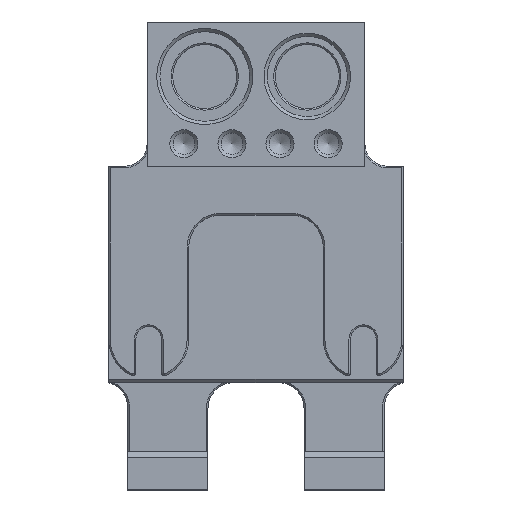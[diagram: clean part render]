
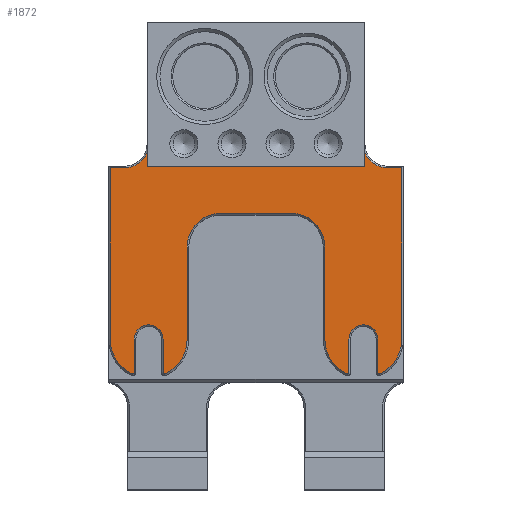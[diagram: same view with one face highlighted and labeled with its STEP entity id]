
A CAD part, top view. The second image highlights one B-rep face of the part: STEP entity #1872.
In plain terms, the highlighted planar face has unit normal (0, 0, 1).
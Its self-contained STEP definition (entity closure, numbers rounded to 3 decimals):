
#88=PLANE('',#2074);
#192=FACE_OUTER_BOUND('',#310,.T.);
#310=EDGE_LOOP('',(#1616,#1617,#1618,#1619,#1620,#1621,#1622,#1623,#1624,
#1625,#1626,#1627,#1628,#1629,#1630,#1631,#1632,#1633,#1634,#1635,#1636,
#1637,#1638,#1639,#1640,#1641,#1642,#1643));
#333=LINE('',#2677,#515);
#337=LINE('',#2686,#519);
#342=LINE('',#2704,#524);
#346=LINE('',#2716,#528);
#351=LINE('',#2734,#533);
#355=LINE('',#2746,#537);
#359=LINE('',#2758,#541);
#364=LINE('',#2776,#546);
#368=LINE('',#2788,#550);
#372=LINE('',#2803,#554);
#375=LINE('',#2817,#557);
#489=LINE('',#3164,#671);
#490=LINE('',#3166,#672);
#491=LINE('',#3167,#673);
#515=VECTOR('',#2109,10.);
#519=VECTOR('',#2115,10.);
#524=VECTOR('',#2134,10.);
#528=VECTOR('',#2146,10.);
#533=VECTOR('',#2165,10.);
#537=VECTOR('',#2177,10.);
#541=VECTOR('',#2189,10.);
#546=VECTOR('',#2208,10.);
#550=VECTOR('',#2220,10.);
#554=VECTOR('',#2238,10.);
#557=VECTOR('',#2249,10.);
#671=VECTOR('',#2593,10.);
#672=VECTOR('',#2594,10.);
#673=VECTOR('',#2595,10.);
#695=CIRCLE('',#1908,7.5);
#697=CIRCLE('',#1913,12.);
#700=CIRCLE('',#1917,0.5);
#701=CIRCLE('',#1920,4.5);
#704=CIRCLE('',#1925,0.5);
#705=CIRCLE('',#1927,12.);
#708=CIRCLE('',#1932,10.5);
#710=CIRCLE('',#1936,10.5);
#711=CIRCLE('',#1939,12.);
#714=CIRCLE('',#1943,0.5);
#715=CIRCLE('',#1946,4.5);
#718=CIRCLE('',#1951,0.5);
#719=CIRCLE('',#1953,12.);
#722=CIRCLE('',#1958,7.5);
#782=VERTEX_POINT('',#2664);
#783=VERTEX_POINT('',#2668);
#786=VERTEX_POINT('',#2676);
#789=VERTEX_POINT('',#2683);
#790=VERTEX_POINT('',#2685);
#792=VERTEX_POINT('',#2690);
#794=VERTEX_POINT('',#2697);
#796=VERTEX_POINT('',#2702);
#798=VERTEX_POINT('',#2708);
#800=VERTEX_POINT('',#2714);
#802=VERTEX_POINT('',#2721);
#804=VERTEX_POINT('',#2726);
#806=VERTEX_POINT('',#2732);
#808=VERTEX_POINT('',#2739);
#810=VERTEX_POINT('',#2744);
#812=VERTEX_POINT('',#2751);
#814=VERTEX_POINT('',#2756);
#816=VERTEX_POINT('',#2762);
#818=VERTEX_POINT('',#2769);
#820=VERTEX_POINT('',#2774);
#822=VERTEX_POINT('',#2780);
#824=VERTEX_POINT('',#2786);
#826=VERTEX_POINT('',#2793);
#828=VERTEX_POINT('',#2798);
#829=VERTEX_POINT('',#2806);
#832=VERTEX_POINT('',#2813);
#938=VERTEX_POINT('',#3163);
#939=VERTEX_POINT('',#3165);
#950=EDGE_CURVE('',#782,#783,#695,.T.);
#954=EDGE_CURVE('',#783,#786,#333,.T.);
#958=EDGE_CURVE('',#789,#790,#337,.T.);
#961=EDGE_CURVE('',#792,#789,#697,.T.);
#965=EDGE_CURVE('',#794,#792,#700,.T.);
#967=EDGE_CURVE('',#796,#794,#342,.T.);
#970=EDGE_CURVE('',#798,#796,#701,.T.);
#973=EDGE_CURVE('',#800,#798,#346,.T.);
#977=EDGE_CURVE('',#802,#800,#704,.T.);
#979=EDGE_CURVE('',#804,#802,#705,.T.);
#982=EDGE_CURVE('',#806,#804,#351,.T.);
#986=EDGE_CURVE('',#808,#806,#708,.T.);
#988=EDGE_CURVE('',#810,#808,#355,.T.);
#992=EDGE_CURVE('',#812,#810,#710,.T.);
#994=EDGE_CURVE('',#814,#812,#359,.T.);
#997=EDGE_CURVE('',#816,#814,#711,.T.);
#1001=EDGE_CURVE('',#818,#816,#714,.T.);
#1003=EDGE_CURVE('',#820,#818,#364,.T.);
#1006=EDGE_CURVE('',#822,#820,#715,.T.);
#1009=EDGE_CURVE('',#824,#822,#368,.T.);
#1013=EDGE_CURVE('',#826,#824,#718,.T.);
#1015=EDGE_CURVE('',#828,#826,#719,.T.);
#1017=EDGE_CURVE('',#786,#828,#372,.T.);
#1022=EDGE_CURVE('',#832,#829,#722,.T.);
#1023=EDGE_CURVE('',#790,#832,#375,.T.);
#1191=EDGE_CURVE('',#938,#782,#489,.T.);
#1192=EDGE_CURVE('',#939,#938,#490,.T.);
#1193=EDGE_CURVE('',#829,#939,#491,.T.);
#1616=ORIENTED_EDGE('',*,*,#950,.F.);
#1617=ORIENTED_EDGE('',*,*,#1191,.F.);
#1618=ORIENTED_EDGE('',*,*,#1192,.F.);
#1619=ORIENTED_EDGE('',*,*,#1193,.F.);
#1620=ORIENTED_EDGE('',*,*,#1022,.F.);
#1621=ORIENTED_EDGE('',*,*,#1023,.F.);
#1622=ORIENTED_EDGE('',*,*,#958,.F.);
#1623=ORIENTED_EDGE('',*,*,#961,.F.);
#1624=ORIENTED_EDGE('',*,*,#965,.F.);
#1625=ORIENTED_EDGE('',*,*,#967,.F.);
#1626=ORIENTED_EDGE('',*,*,#970,.F.);
#1627=ORIENTED_EDGE('',*,*,#973,.F.);
#1628=ORIENTED_EDGE('',*,*,#977,.F.);
#1629=ORIENTED_EDGE('',*,*,#979,.F.);
#1630=ORIENTED_EDGE('',*,*,#982,.F.);
#1631=ORIENTED_EDGE('',*,*,#986,.F.);
#1632=ORIENTED_EDGE('',*,*,#988,.F.);
#1633=ORIENTED_EDGE('',*,*,#992,.F.);
#1634=ORIENTED_EDGE('',*,*,#994,.F.);
#1635=ORIENTED_EDGE('',*,*,#997,.F.);
#1636=ORIENTED_EDGE('',*,*,#1001,.F.);
#1637=ORIENTED_EDGE('',*,*,#1003,.F.);
#1638=ORIENTED_EDGE('',*,*,#1006,.F.);
#1639=ORIENTED_EDGE('',*,*,#1009,.F.);
#1640=ORIENTED_EDGE('',*,*,#1013,.F.);
#1641=ORIENTED_EDGE('',*,*,#1015,.F.);
#1642=ORIENTED_EDGE('',*,*,#1017,.F.);
#1643=ORIENTED_EDGE('',*,*,#954,.F.);
#1872=ADVANCED_FACE('',(#192),#88,.T.);
#1908=AXIS2_PLACEMENT_3D('',#2669,#2101,#2102);
#1913=AXIS2_PLACEMENT_3D('',#2692,#2120,#2121);
#1917=AXIS2_PLACEMENT_3D('',#2699,#2129,#2130);
#1920=AXIS2_PLACEMENT_3D('',#2710,#2139,#2140);
#1925=AXIS2_PLACEMENT_3D('',#2723,#2153,#2154);
#1927=AXIS2_PLACEMENT_3D('',#2728,#2158,#2159);
#1932=AXIS2_PLACEMENT_3D('',#2741,#2172,#2173);
#1936=AXIS2_PLACEMENT_3D('',#2753,#2184,#2185);
#1939=AXIS2_PLACEMENT_3D('',#2764,#2194,#2195);
#1943=AXIS2_PLACEMENT_3D('',#2771,#2203,#2204);
#1946=AXIS2_PLACEMENT_3D('',#2782,#2213,#2214);
#1951=AXIS2_PLACEMENT_3D('',#2795,#2227,#2228);
#1953=AXIS2_PLACEMENT_3D('',#2800,#2232,#2233);
#1958=AXIS2_PLACEMENT_3D('',#2815,#2245,#2246);
#2074=AXIS2_PLACEMENT_3D('',#3162,#2591,#2592);
#2101=DIRECTION('center_axis',(0.,0.,1.));
#2102=DIRECTION('ref_axis',(-0.707,-0.707,0.));
#2109=DIRECTION('',(1.,0.,0.));
#2115=DIRECTION('',(0.,1.,0.));
#2120=DIRECTION('center_axis',(0.,0.,-1.));
#2121=DIRECTION('ref_axis',(0.32,-0.947,0.));
#2129=DIRECTION('center_axis',(0.,0.,-1.));
#2130=DIRECTION('ref_axis',(0.532,-0.847,0.));
#2134=DIRECTION('',(0.,-1.,0.));
#2139=DIRECTION('center_axis',(0.,0.,1.));
#2140=DIRECTION('ref_axis',(1.,0.,0.));
#2146=DIRECTION('',(0.,1.,0.));
#2153=DIRECTION('center_axis',(0.,0.,-1.));
#2154=DIRECTION('ref_axis',(-0.532,-0.847,0.));
#2158=DIRECTION('center_axis',(0.,0.,-1.));
#2159=DIRECTION('ref_axis',(0.32,-0.947,0.));
#2165=DIRECTION('',(0.,-1.,0.));
#2172=DIRECTION('center_axis',(0.,0.,1.));
#2173=DIRECTION('ref_axis',(-0.707,0.707,0.));
#2177=DIRECTION('',(-1.,0.,0.));
#2184=DIRECTION('center_axis',(0.,0.,1.));
#2185=DIRECTION('ref_axis',(0.707,0.707,0.));
#2189=DIRECTION('',(0.,1.,0.));
#2194=DIRECTION('center_axis',(0.,0.,-1.));
#2195=DIRECTION('ref_axis',(0.32,-0.947,0.));
#2203=DIRECTION('center_axis',(0.,0.,-1.));
#2204=DIRECTION('ref_axis',(0.532,-0.847,0.));
#2208=DIRECTION('',(0.,-1.,0.));
#2213=DIRECTION('center_axis',(0.,0.,1.));
#2214=DIRECTION('ref_axis',(1.,0.,0.));
#2220=DIRECTION('',(0.,1.,0.));
#2227=DIRECTION('center_axis',(0.,0.,-1.));
#2228=DIRECTION('ref_axis',(-0.532,-0.847,0.));
#2232=DIRECTION('center_axis',(0.,0.,-1.));
#2233=DIRECTION('ref_axis',(0.32,-0.947,0.));
#2238=DIRECTION('',(0.,-1.,0.));
#2245=DIRECTION('center_axis',(0.,0.,1.));
#2246=DIRECTION('ref_axis',(0.707,-0.707,0.));
#2249=DIRECTION('',(1.,0.,0.));
#2591=DIRECTION('center_axis',(0.,0.,1.));
#2592=DIRECTION('ref_axis',(1.,0.,0.));
#2593=DIRECTION('',(0.,1.,0.));
#2594=DIRECTION('',(1.,0.,0.));
#2595=DIRECTION('',(0.,-1.,0.));
#2664=CARTESIAN_POINT('',(34.,32.307,30.));
#2668=CARTESIAN_POINT('',(41.,27.5,30.));
#2669=CARTESIAN_POINT('Origin',(41.,35.,30.));
#2676=CARTESIAN_POINT('',(45.5,27.5,30.));
#2677=CARTESIAN_POINT('',(23.,27.5,30.));
#2683=CARTESIAN_POINT('',(-45.5,-26.,30.));
#2685=CARTESIAN_POINT('',(-45.5,27.5,30.));
#2686=CARTESIAN_POINT('',(-45.5,14.,30.));
#2690=CARTESIAN_POINT('',(-38.717,-36.806,30.));
#2692=CARTESIAN_POINT('Origin',(-33.5,-26.,30.));
#2697=CARTESIAN_POINT('',(-38.,-36.356,30.));
#2699=CARTESIAN_POINT('Origin',(-38.5,-36.356,30.));
#2702=CARTESIAN_POINT('',(-38.,-26.,30.));
#2704=CARTESIAN_POINT('',(-38.,-18.921,30.));
#2708=CARTESIAN_POINT('',(-29.,-26.,30.));
#2710=CARTESIAN_POINT('Origin',(-33.5,-26.,30.));
#2714=CARTESIAN_POINT('',(-29.,-36.356,30.));
#2716=CARTESIAN_POINT('',(-29.,-13.,30.));
#2721=CARTESIAN_POINT('',(-28.283,-36.806,30.));
#2723=CARTESIAN_POINT('Origin',(-28.5,-36.356,30.));
#2726=CARTESIAN_POINT('',(-21.5,-26.,30.));
#2728=CARTESIAN_POINT('Origin',(-33.5,-26.,30.));
#2732=CARTESIAN_POINT('',(-21.5,2.75,30.));
#2734=CARTESIAN_POINT('',(-21.5,-13.,30.));
#2739=CARTESIAN_POINT('',(-11.,13.25,30.));
#2741=CARTESIAN_POINT('Origin',(-11.,2.75,30.));
#2744=CARTESIAN_POINT('',(11.,13.25,30.));
#2746=CARTESIAN_POINT('',(-10.5,13.25,30.));
#2751=CARTESIAN_POINT('',(21.5,2.75,30.));
#2753=CARTESIAN_POINT('Origin',(11.,2.75,30.));
#2756=CARTESIAN_POINT('',(21.5,-26.,30.));
#2758=CARTESIAN_POINT('',(21.5,6.375,30.));
#2762=CARTESIAN_POINT('',(28.283,-36.806,30.));
#2764=CARTESIAN_POINT('Origin',(33.5,-26.,30.));
#2769=CARTESIAN_POINT('',(29.,-36.356,30.));
#2771=CARTESIAN_POINT('Origin',(28.5,-36.356,30.));
#2774=CARTESIAN_POINT('',(29.,-26.,30.));
#2776=CARTESIAN_POINT('',(29.,-18.921,30.));
#2780=CARTESIAN_POINT('',(38.,-26.,30.));
#2782=CARTESIAN_POINT('Origin',(33.5,-26.,30.));
#2786=CARTESIAN_POINT('',(38.,-36.356,30.));
#2788=CARTESIAN_POINT('',(38.,-13.,30.));
#2793=CARTESIAN_POINT('',(38.717,-36.806,30.));
#2795=CARTESIAN_POINT('Origin',(38.5,-36.356,30.));
#2798=CARTESIAN_POINT('',(45.5,-26.,30.));
#2800=CARTESIAN_POINT('Origin',(33.5,-26.,30.));
#2803=CARTESIAN_POINT('',(45.5,-13.,30.));
#2806=CARTESIAN_POINT('',(-34.,32.307,30.));
#2813=CARTESIAN_POINT('',(-41.,27.5,30.));
#2815=CARTESIAN_POINT('Origin',(-41.,35.,30.));
#2817=CARTESIAN_POINT('',(23.,27.5,30.));
#3162=CARTESIAN_POINT('Origin',(0.,0.,30.));
#3163=CARTESIAN_POINT('',(34.,28.,30.));
#3164=CARTESIAN_POINT('',(34.,14.,30.));
#3165=CARTESIAN_POINT('',(-34.,28.,30.));
#3166=CARTESIAN_POINT('',(-17.,28.,30.));
#3167=CARTESIAN_POINT('',(-34.,36.5,30.));
